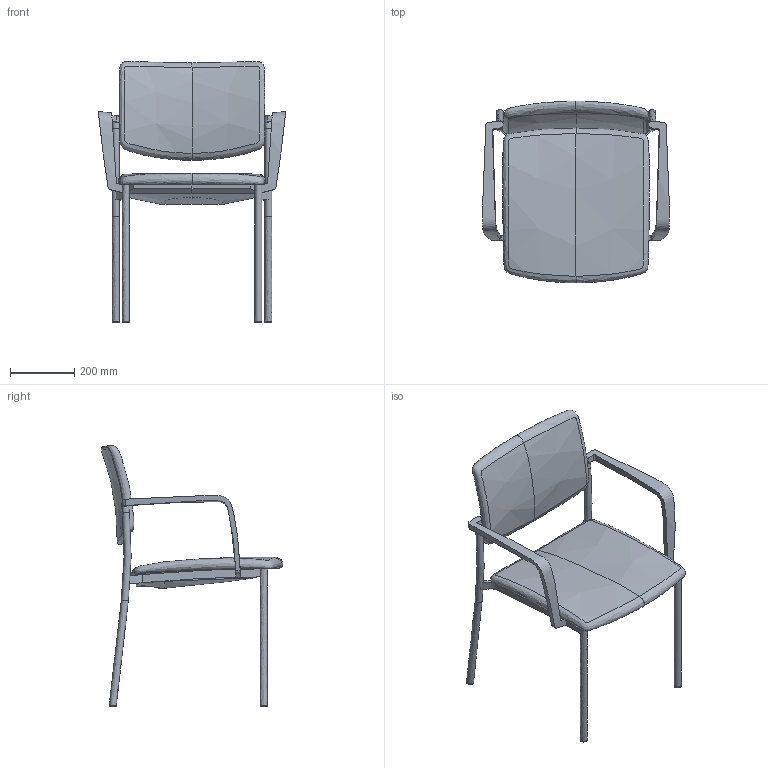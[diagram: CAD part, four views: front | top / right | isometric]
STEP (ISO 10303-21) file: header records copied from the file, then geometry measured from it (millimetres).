
FILE_DESCRIPTION(/* description */ (''),/* implementation_level */ '2;1');
FILE_NAME(/* name */ 'Seance 090-BR',/* time_stamp */ '2020-03-26T11:01:57+01:00',/* author */ (''),/* organization */ (''),/* preprocessor_version */ 'ST-DEVELOPER v16.5',/* originating_system */ '',/* authorisation */ '');
FILE_SCHEMA (('AUTOMOTIVE_DESIGN'));
Length unit declared in the file: millimetre
Products named in the file (1): Document
Bounding box: 580.87 x 564.48 x 811.07 mm (x, y, z)
Volume: 12094618.6 mm3; surface area: 1282398.8 mm2
Topology: 6 solids, 17 shells, 104 faces, 239 edges, 157 vertices
Faces by surface type: bspline 70, plane 34
Entity records: 7371 total; most frequent: CARTESIAN_POINT 5752, ORIENTED_EDGE 450, EDGE_CURVE 236, B_SPLINE_CURVE_WITH_KNOTS 180, VERTEX_POINT 151, ADVANCED_FACE 104, FACE_OUTER_BOUND 104, EDGE_LOOP 104
